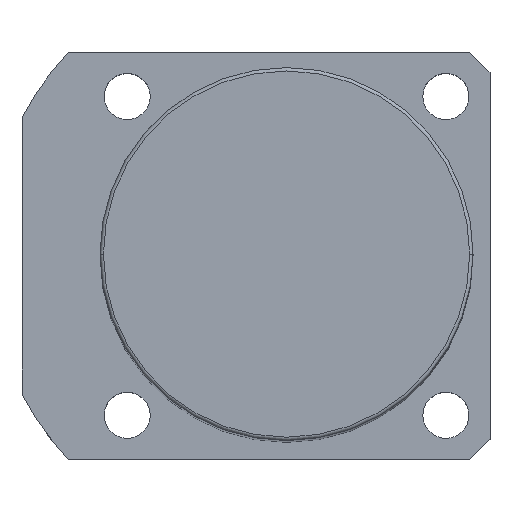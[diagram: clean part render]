
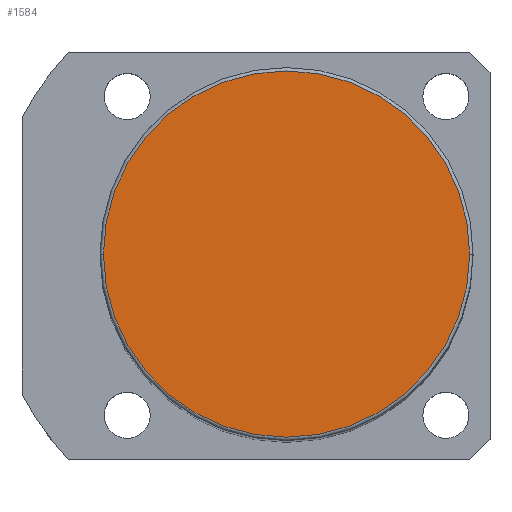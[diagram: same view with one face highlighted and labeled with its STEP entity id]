
A CAD part, top view. The second image highlights one B-rep face of the part: STEP entity #1584.
In plain terms, the highlighted planar face has unit normal (0, 0, 1).
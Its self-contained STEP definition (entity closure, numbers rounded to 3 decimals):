
#37 = ORIENTED_EDGE ( 'NONE', *, *, #776, .T. ) ;
#105 = AXIS2_PLACEMENT_3D ( 'NONE', #1329, #634, #1625 ) ;
#124 = DIRECTION ( 'NONE',  ( 1., 0., 0. ) ) ;
#164 = DIRECTION ( 'NONE',  ( 1., 0., 0. ) ) ;
#222 = VERTEX_POINT ( 'NONE', #233 ) ;
#233 = CARTESIAN_POINT ( 'NONE',  ( 27., 0., 161. ) ) ;
#278 = CARTESIAN_POINT ( 'NONE',  ( -27., 0., 161. ) ) ;
#373 = VERTEX_POINT ( 'NONE', #278 ) ;
#393 = FACE_OUTER_BOUND ( 'NONE', #1000, .T. ) ;
#397 = DIRECTION ( 'NONE',  ( 0., 0., 1. ) ) ;
#428 = EDGE_CURVE ( 'NONE', #222, #373, #513, .T. ) ;
#513 = CIRCLE ( 'NONE', #553, 27. ) ;
#553 = AXIS2_PLACEMENT_3D ( 'NONE', #1004, #1708, #164 ) ;
#634 = DIRECTION ( 'NONE',  ( 0., 0., 1. ) ) ;
#776 = EDGE_CURVE ( 'NONE', #373, #222, #902, .T. ) ;
#902 = CIRCLE ( 'NONE', #1063, 27. ) ;
#1000 = EDGE_LOOP ( 'NONE', ( #1319, #37 ) ) ;
#1004 = CARTESIAN_POINT ( 'NONE',  ( 0., 0., 161. ) ) ;
#1063 = AXIS2_PLACEMENT_3D ( 'NONE', #1222, #397, #124 ) ;
#1222 = CARTESIAN_POINT ( 'NONE',  ( 0., 0., 161. ) ) ;
#1319 = ORIENTED_EDGE ( 'NONE', *, *, #428, .T. ) ;
#1329 = CARTESIAN_POINT ( 'NONE',  ( 0., 0., 161. ) ) ;
#1332 = PLANE ( 'NONE',  #105 ) ;
#1584 = ADVANCED_FACE ( 'NONE', ( #393 ), #1332, .T. ) ;
#1625 = DIRECTION ( 'NONE',  ( 1., 0., 0. ) ) ;
#1708 = DIRECTION ( 'NONE',  ( 0., 0., 1. ) ) ;
